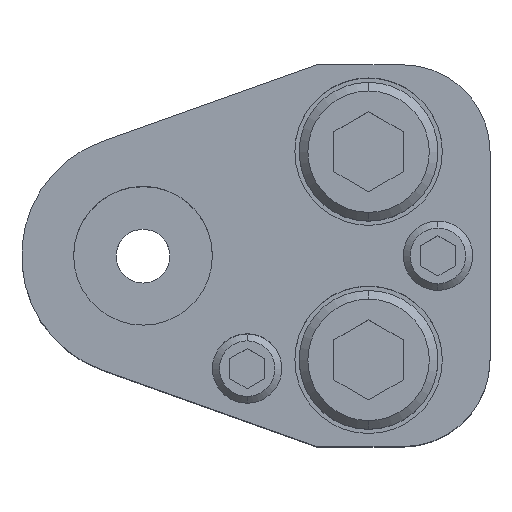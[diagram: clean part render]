
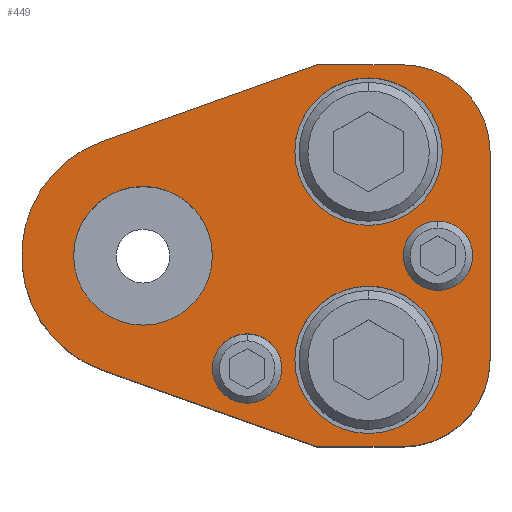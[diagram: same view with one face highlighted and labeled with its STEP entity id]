
A CAD part, top view. The second image highlights one B-rep face of the part: STEP entity #449.
In plain terms, the highlighted planar face has unit normal (0, 0, 1).
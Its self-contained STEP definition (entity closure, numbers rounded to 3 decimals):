
#205=FACE_BOUND('',#805,.T.);
#206=FACE_BOUND('',#806,.T.);
#207=FACE_BOUND('',#807,.T.);
#208=FACE_BOUND('',#808,.T.);
#209=FACE_BOUND('',#809,.T.);
#210=FACE_BOUND('',#810,.T.);
#271=CIRCLE('',#2618,14.);
#273=CIRCLE('',#2623,10.);
#275=CIRCLE('',#2627,10.);
#277=CIRCLE('',#2632,4.);
#279=CIRCLE('',#2635,4.);
#281=CIRCLE('',#2638,4.);
#283=CIRCLE('',#2641,4.);
#293=CIRCLE('',#2656,8.5);
#294=CIRCLE('',#2657,8.5);
#295=CIRCLE('',#2658,8.5);
#296=CIRCLE('',#2659,8.5);
#297=CIRCLE('',#2660,8.);
#298=CIRCLE('',#2661,8.);
#449=ADVANCED_FACE('',(#205,#206,#207,#208,#209,#210),#579,.T.);
#579=PLANE('',#2662);
#805=EDGE_LOOP('',(#1137,#1138,#1139,#1140,#1141,#1142,#1143,#1144));
#806=EDGE_LOOP('',(#1145,#1146));
#807=EDGE_LOOP('',(#1147,#1148));
#808=EDGE_LOOP('',(#1149,#1150));
#809=EDGE_LOOP('',(#1151,#1152));
#810=EDGE_LOOP('',(#1153,#1154));
#1137=ORIENTED_EDGE('',*,*,#1914,.T.);
#1138=ORIENTED_EDGE('',*,*,#1918,.T.);
#1139=ORIENTED_EDGE('',*,*,#1921,.T.);
#1140=ORIENTED_EDGE('',*,*,#1924,.T.);
#1141=ORIENTED_EDGE('',*,*,#1927,.T.);
#1142=ORIENTED_EDGE('',*,*,#1930,.T.);
#1143=ORIENTED_EDGE('',*,*,#1933,.T.);
#1144=ORIENTED_EDGE('',*,*,#1936,.T.);
#1145=ORIENTED_EDGE('',*,*,#1961,.F.);
#1146=ORIENTED_EDGE('',*,*,#1962,.F.);
#1147=ORIENTED_EDGE('',*,*,#1963,.F.);
#1148=ORIENTED_EDGE('',*,*,#1964,.F.);
#1149=ORIENTED_EDGE('',*,*,#1947,.F.);
#1150=ORIENTED_EDGE('',*,*,#1943,.F.);
#1151=ORIENTED_EDGE('',*,*,#1941,.F.);
#1152=ORIENTED_EDGE('',*,*,#1937,.F.);
#1153=ORIENTED_EDGE('',*,*,#1965,.T.);
#1154=ORIENTED_EDGE('',*,*,#1966,.T.);
#1670=VERTEX_POINT('',#3804);
#1671=VERTEX_POINT('',#3806);
#1674=VERTEX_POINT('',#3813);
#1676=VERTEX_POINT('',#3819);
#1678=VERTEX_POINT('',#3825);
#1680=VERTEX_POINT('',#3831);
#1682=VERTEX_POINT('',#3837);
#1684=VERTEX_POINT('',#3843);
#1685=VERTEX_POINT('',#3851);
#1686=VERTEX_POINT('',#3852);
#1689=VERTEX_POINT('',#3863);
#1690=VERTEX_POINT('',#3864);
#1701=VERTEX_POINT('',#3899);
#1702=VERTEX_POINT('',#3900);
#1703=VERTEX_POINT('',#3903);
#1704=VERTEX_POINT('',#3904);
#1705=VERTEX_POINT('',#3907);
#1706=VERTEX_POINT('',#3908);
#1914=EDGE_CURVE('',#1671,#1670,#271,.T.);
#1918=EDGE_CURVE('',#1670,#1674,#2242,.T.);
#1921=EDGE_CURVE('',#1674,#1676,#2245,.T.);
#1924=EDGE_CURVE('',#1676,#1678,#273,.T.);
#1927=EDGE_CURVE('',#1678,#1680,#2249,.T.);
#1930=EDGE_CURVE('',#1680,#1682,#275,.T.);
#1933=EDGE_CURVE('',#1682,#1684,#2253,.T.);
#1936=EDGE_CURVE('',#1684,#1671,#2256,.T.);
#1937=EDGE_CURVE('',#1685,#1686,#277,.T.);
#1941=EDGE_CURVE('',#1686,#1685,#279,.T.);
#1943=EDGE_CURVE('',#1689,#1690,#281,.T.);
#1947=EDGE_CURVE('',#1690,#1689,#283,.T.);
#1961=EDGE_CURVE('',#1701,#1702,#293,.T.);
#1962=EDGE_CURVE('',#1702,#1701,#294,.T.);
#1963=EDGE_CURVE('',#1703,#1704,#295,.T.);
#1964=EDGE_CURVE('',#1704,#1703,#296,.T.);
#1965=EDGE_CURVE('',#1705,#1706,#297,.T.);
#1966=EDGE_CURVE('',#1706,#1705,#298,.T.);
#2242=LINE('',#3814,#2432);
#2245=LINE('',#3820,#2435);
#2249=LINE('',#3832,#2439);
#2253=LINE('',#3844,#2443);
#2256=LINE('',#3848,#2446);
#2432=VECTOR('',#3024,1.);
#2435=VECTOR('',#3029,1.);
#2439=VECTOR('',#3041,1.);
#2443=VECTOR('',#3053,1.);
#2446=VECTOR('',#3058,1.);
#2618=AXIS2_PLACEMENT_3D('',#3805,#3016,#3017);
#2623=AXIS2_PLACEMENT_3D('',#3826,#3034,#3035);
#2627=AXIS2_PLACEMENT_3D('',#3838,#3046,#3047);
#2632=AXIS2_PLACEMENT_3D('',#3850,#3061,#3062);
#2635=AXIS2_PLACEMENT_3D('',#3859,#3069,#3070);
#2638=AXIS2_PLACEMENT_3D('',#3862,#3075,#3076);
#2641=AXIS2_PLACEMENT_3D('',#3871,#3083,#3084);
#2656=AXIS2_PLACEMENT_3D('',#3898,#3117,#3118);
#2657=AXIS2_PLACEMENT_3D('',#3901,#3119,#3120);
#2658=AXIS2_PLACEMENT_3D('',#3902,#3121,#3122);
#2659=AXIS2_PLACEMENT_3D('',#3905,#3123,#3124);
#2660=AXIS2_PLACEMENT_3D('',#3906,#3125,#3126);
#2661=AXIS2_PLACEMENT_3D('',#3909,#3127,#3128);
#2662=AXIS2_PLACEMENT_3D('',#3910,#3129,#3130);
#3016=DIRECTION('',(0.,0.,1.));
#3017=DIRECTION('',(0.,1.,0.));
#3024=DIRECTION('',(0.942,-0.336,0.));
#3029=DIRECTION('',(1.,0.,0.));
#3034=DIRECTION('',(0.,0.,1.));
#3035=DIRECTION('',(-0.707,0.707,0.));
#3041=DIRECTION('',(0.,1.,0.));
#3046=DIRECTION('',(0.,0.,1.));
#3047=DIRECTION('',(-0.707,-0.707,0.));
#3053=DIRECTION('',(-1.,0.,0.));
#3058=DIRECTION('',(-0.942,-0.336,0.));
#3061=DIRECTION('',(0.,0.,1.));
#3062=DIRECTION('',(1.,0.,0.));
#3069=DIRECTION('',(0.,0.,1.));
#3070=DIRECTION('',(-1.,0.,0.));
#3075=DIRECTION('',(0.,0.,1.));
#3076=DIRECTION('',(1.,0.,0.));
#3083=DIRECTION('',(0.,0.,1.));
#3084=DIRECTION('',(-1.,0.,0.));
#3117=DIRECTION('',(0.,0.,1.));
#3118=DIRECTION('',(1.,0.,0.));
#3119=DIRECTION('',(0.,0.,1.));
#3120=DIRECTION('',(-1.,0.,0.));
#3121=DIRECTION('',(0.,0.,1.));
#3122=DIRECTION('',(1.,0.,0.));
#3123=DIRECTION('',(0.,0.,1.));
#3124=DIRECTION('',(-1.,0.,0.));
#3125=DIRECTION('',(0.,0.,-1.));
#3126=DIRECTION('',(-1.,0.,0.));
#3127=DIRECTION('',(0.,0.,-1.));
#3128=DIRECTION('',(1.,0.,0.));
#3129=DIRECTION('',(0.,0.,1.));
#3130=DIRECTION('',(0.942,0.336,0.));
#3804=CARTESIAN_POINT('',(-4.704,-13.186,35.));
#3805=CARTESIAN_POINT('',(0.,0.,35.));
#3806=CARTESIAN_POINT('',(-4.704,13.186,35.));
#3813=CARTESIAN_POINT('',(20.,-22.,35.));
#3814=CARTESIAN_POINT('',(20.,-22.,35.));
#3819=CARTESIAN_POINT('',(30.,-22.,35.));
#3820=CARTESIAN_POINT('',(20.,-22.,35.));
#3825=CARTESIAN_POINT('',(40.,-12.,35.));
#3826=CARTESIAN_POINT('',(30.,-12.,35.));
#3831=CARTESIAN_POINT('',(40.,12.,35.));
#3832=CARTESIAN_POINT('',(40.,-12.,35.));
#3837=CARTESIAN_POINT('',(30.,22.,35.));
#3838=CARTESIAN_POINT('',(30.,12.,35.));
#3843=CARTESIAN_POINT('',(20.,22.,35.));
#3844=CARTESIAN_POINT('',(20.,22.,35.));
#3848=CARTESIAN_POINT('',(20.,22.,35.));
#3850=CARTESIAN_POINT('',(12.,-13.,35.));
#3851=CARTESIAN_POINT('',(12.,-9.,35.));
#3852=CARTESIAN_POINT('',(12.,-17.,35.));
#3859=CARTESIAN_POINT('',(12.,-13.,35.));
#3862=CARTESIAN_POINT('',(34.,0.,35.));
#3863=CARTESIAN_POINT('',(34.,4.,35.));
#3864=CARTESIAN_POINT('',(34.,-4.,35.));
#3871=CARTESIAN_POINT('',(34.,0.,35.));
#3898=CARTESIAN_POINT('',(26.,-12.,35.));
#3899=CARTESIAN_POINT('',(26.,-3.5,35.));
#3900=CARTESIAN_POINT('',(26.,-20.5,35.));
#3901=CARTESIAN_POINT('',(26.,-12.,35.));
#3902=CARTESIAN_POINT('',(26.,12.,35.));
#3903=CARTESIAN_POINT('',(26.,20.5,35.));
#3904=CARTESIAN_POINT('',(26.,3.5,35.));
#3905=CARTESIAN_POINT('',(26.,12.,35.));
#3906=CARTESIAN_POINT('',(0.,0.,35.));
#3907=CARTESIAN_POINT('',(0.,8.,35.));
#3908=CARTESIAN_POINT('',(0.,-8.,35.));
#3909=CARTESIAN_POINT('',(0.,0.,35.));
#3910=CARTESIAN_POINT('',(-4.704,13.186,35.));
